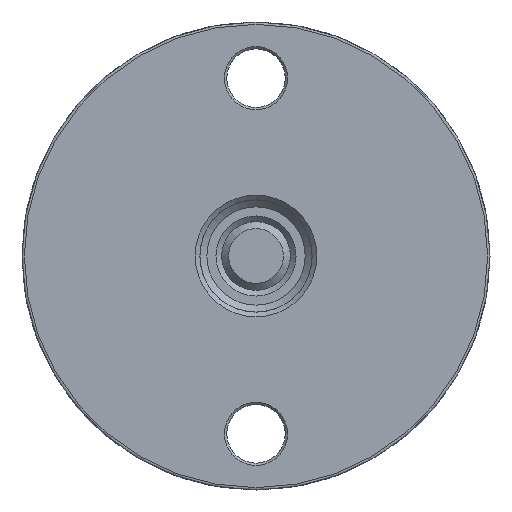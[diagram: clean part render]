
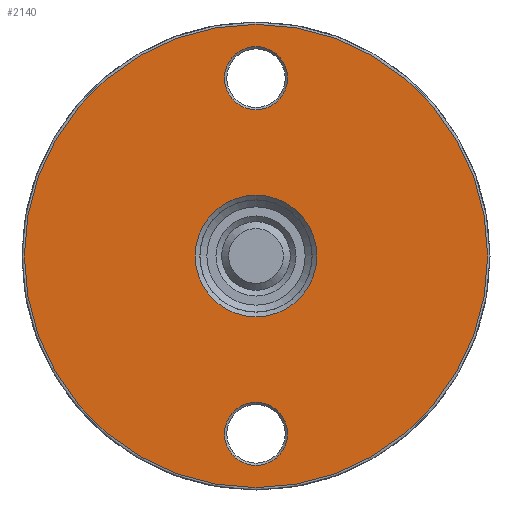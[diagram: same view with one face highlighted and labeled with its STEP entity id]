
A CAD part, left-side view. The second image highlights one B-rep face of the part: STEP entity #2140.
In plain terms, the highlighted planar face has unit normal (-1, 0, 0).
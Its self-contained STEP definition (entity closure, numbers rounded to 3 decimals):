
#1215=CARTESIAN_POINT('',(-523.004,-475.109,0.138));
#1216=VERTEX_POINT('',#1215);
#1217=CARTESIAN_POINT('',(-523.004,-501.109,0.138));
#1218=VERTEX_POINT('',#1217);
#1219=CARTESIAN_POINT('',(-523.004,-488.109,0.138));
#1220=DIRECTION('',(1.0,0.0,0.0));
#1221=DIRECTION('',(0.0,-1.0,0.0));
#1222=AXIS2_PLACEMENT_3D('',#1219,#1220,#1221);
#1223=CIRCLE('',#1222,13.0);
#1224=EDGE_CURVE('',#1216,#1218,#1223,.T.);
#1226=CARTESIAN_POINT('',(-523.004,-488.109,0.138));
#1227=DIRECTION('',(1.0,0.0,0.0));
#1228=DIRECTION('',(0.0,-1.0,0.0));
#1229=AXIS2_PLACEMENT_3D('',#1226,#1227,#1228);
#1230=CIRCLE('',#1229,13.0);
#1231=EDGE_CURVE('',#1218,#1216,#1230,.T.);
#1310=CARTESIAN_POINT('',(-523.004,-488.109,-49.362));
#1311=VERTEX_POINT('',#1310);
#1338=CARTESIAN_POINT('',(-523.004,-488.109,49.638));
#1339=VERTEX_POINT('',#1338);
#1340=CARTESIAN_POINT('',(-523.004,-488.109,0.138));
#1341=DIRECTION('',(-1.0,0.0,0.0));
#1342=DIRECTION('',(0.0,0.0,-1.0));
#1343=AXIS2_PLACEMENT_3D('',#1340,#1341,#1342);
#1344=CIRCLE('',#1343,49.5);
#1345=EDGE_CURVE('',#1339,#1311,#1344,.T.);
#1347=CARTESIAN_POINT('',(-523.004,-488.109,0.138));
#1348=DIRECTION('',(-1.0,0.0,0.0));
#1349=DIRECTION('',(0.0,0.0,-1.0));
#1350=AXIS2_PLACEMENT_3D('',#1347,#1348,#1349);
#1351=CIRCLE('',#1350,49.5);
#1352=EDGE_CURVE('',#1311,#1339,#1351,.T.);
#2087=CARTESIAN_POINT('',(-523.004,-438.608,-49.363));
#2088=DIRECTION('',(-1.0,0.0,0.0));
#2089=DIRECTION('',(0.0,-1.0,0.0));
#2090=AXIS2_PLACEMENT_3D('',#2087,#2088,#2089);
#2091=PLANE('',#2090);
#2092=ORIENTED_EDGE('',*,*,#1352,.T.);
#2093=ORIENTED_EDGE('',*,*,#1345,.T.);
#2094=EDGE_LOOP('',(#2092,#2093));
#2095=FACE_OUTER_BOUND('',#2094,.T.);
#2096=ORIENTED_EDGE('',*,*,#1231,.T.);
#2097=ORIENTED_EDGE('',*,*,#1224,.T.);
#2098=EDGE_LOOP('',(#2096,#2097));
#2099=FACE_BOUND('',#2098,.T.);
#2100=CARTESIAN_POINT('',(-523.004,-494.859,-37.862));
#2101=VERTEX_POINT('',#2100);
#2102=CARTESIAN_POINT('',(-523.004,-481.359,-37.862));
#2103=VERTEX_POINT('',#2102);
#2104=CARTESIAN_POINT('',(-523.004,-488.109,-37.862));
#2105=DIRECTION('',(1.0,0.0,0.0));
#2106=DIRECTION('',(0.0,-1.0,0.0));
#2107=AXIS2_PLACEMENT_3D('',#2104,#2105,#2106);
#2108=CIRCLE('',#2107,6.75);
#2109=EDGE_CURVE('',#2101,#2103,#2108,.T.);
#2110=ORIENTED_EDGE('',*,*,#2109,.T.);
#2111=CARTESIAN_POINT('',(-523.004,-488.109,-37.862));
#2112=DIRECTION('',(1.0,0.0,0.0));
#2113=DIRECTION('',(0.0,-1.0,0.0));
#2114=AXIS2_PLACEMENT_3D('',#2111,#2112,#2113);
#2115=CIRCLE('',#2114,6.75);
#2116=EDGE_CURVE('',#2103,#2101,#2115,.T.);
#2117=ORIENTED_EDGE('',*,*,#2116,.T.);
#2118=EDGE_LOOP('',(#2110,#2117));
#2119=FACE_BOUND('',#2118,.T.);
#2120=CARTESIAN_POINT('',(-523.004,-494.859,38.138));
#2121=VERTEX_POINT('',#2120);
#2122=CARTESIAN_POINT('',(-523.004,-481.359,38.138));
#2123=VERTEX_POINT('',#2122);
#2124=CARTESIAN_POINT('',(-523.004,-488.109,38.138));
#2125=DIRECTION('',(1.0,0.0,0.0));
#2126=DIRECTION('',(0.0,-1.0,0.0));
#2127=AXIS2_PLACEMENT_3D('',#2124,#2125,#2126);
#2128=CIRCLE('',#2127,6.75);
#2129=EDGE_CURVE('',#2121,#2123,#2128,.T.);
#2130=ORIENTED_EDGE('',*,*,#2129,.T.);
#2131=CARTESIAN_POINT('',(-523.004,-488.109,38.138));
#2132=DIRECTION('',(1.0,0.0,0.0));
#2133=DIRECTION('',(0.0,-1.0,0.0));
#2134=AXIS2_PLACEMENT_3D('',#2131,#2132,#2133);
#2135=CIRCLE('',#2134,6.75);
#2136=EDGE_CURVE('',#2123,#2121,#2135,.T.);
#2137=ORIENTED_EDGE('',*,*,#2136,.T.);
#2138=EDGE_LOOP('',(#2130,#2137));
#2139=FACE_BOUND('',#2138,.T.);
#2140=ADVANCED_FACE('',(#2095,#2099,#2119,#2139),#2091,.T.);
